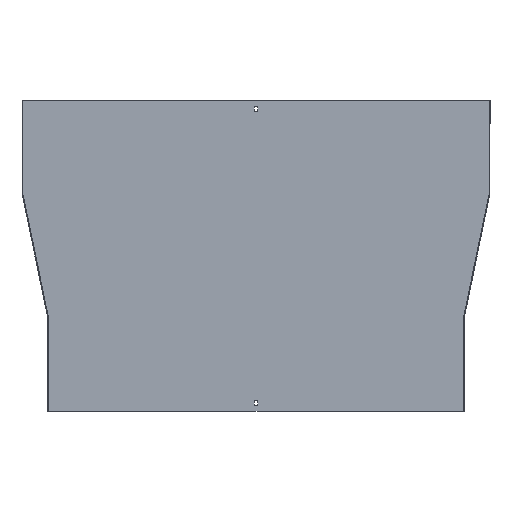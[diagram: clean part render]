
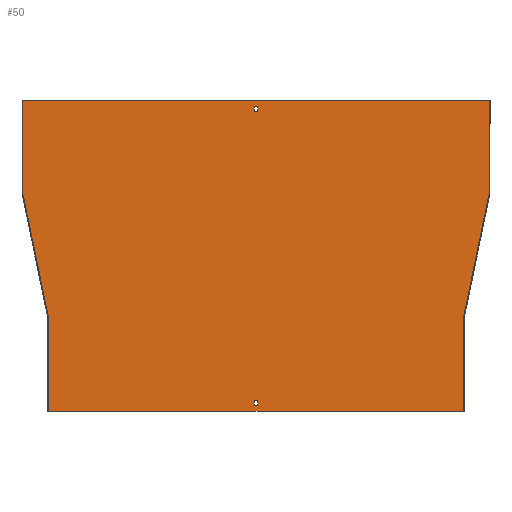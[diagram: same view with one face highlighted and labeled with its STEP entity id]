
A CAD part, front view. The second image highlights one B-rep face of the part: STEP entity #50.
In plain terms, the highlighted planar face has unit normal (0, -1, 0).
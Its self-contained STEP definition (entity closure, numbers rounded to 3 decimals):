
#4 = EDGE_LOOP ( 'NONE', ( #29, #492, #742, #389 ) ) ;
#21 = FACE_BOUND ( 'NONE', #4, .T. ) ;
#23 = VERTEX_POINT ( 'NONE', #665 ) ;
#27 = CARTESIAN_POINT ( 'NONE',  ( 3.25, -1.5, 0. ) ) ;
#29 = ORIENTED_EDGE ( 'NONE', *, *, #266, .F. ) ;
#39 = VECTOR ( 'NONE', #53, 1000. ) ;
#46 = CARTESIAN_POINT ( 'NONE',  ( -400., -1.5, -420. ) ) ;
#50 = ADVANCED_FACE ( 'NONE', ( #21, #801, #544 ), #214, .T. ) ;
#53 = DIRECTION ( 'NONE',  ( 0., 0., 1. ) ) ;
#60 = VERTEX_POINT ( 'NONE', #669 ) ;
#74 = CARTESIAN_POINT ( 'NONE',  ( 3.25, -1.5, 0. ) ) ;
#79 = LINE ( 'NONE', #74, #854 ) ;
#87 = ORIENTED_EDGE ( 'NONE', *, *, #443, .T. ) ;
#92 = VECTOR ( 'NONE', #795, 1000. ) ;
#93 = ORIENTED_EDGE ( 'NONE', *, *, #396, .T. ) ;
#96 = DIRECTION ( 'NONE',  ( 0., 0., 1. ) ) ;
#98 = CARTESIAN_POINT ( 'NONE',  ( -3.25, -1.5, -12. ) ) ;
#100 = LINE ( 'NONE', #241, #425 ) ;
#102 = CARTESIAN_POINT ( 'NONE',  ( 450., -1.5, 0. ) ) ;
#115 = VERTEX_POINT ( 'NONE', #169 ) ;
#129 = EDGE_CURVE ( 'NONE', #831, #807, #490, .T. ) ;
#131 = VECTOR ( 'NONE', #96, 1000. ) ;
#142 = LINE ( 'NONE', #595, #365 ) ;
#144 = VERTEX_POINT ( 'NONE', #572 ) ;
#145 = VERTEX_POINT ( 'NONE', #102 ) ;
#157 = CARTESIAN_POINT ( 'NONE',  ( 0., -1.5, 0. ) ) ;
#169 = CARTESIAN_POINT ( 'NONE',  ( 3.25, -1.5, -579. ) ) ;
#182 = VECTOR ( 'NONE', #800, 1000. ) ;
#183 = DIRECTION ( 'NONE',  ( -1., 0., 0. ) ) ;
#189 = EDGE_CURVE ( 'NONE', #145, #60, #245, .T. ) ;
#190 = VERTEX_POINT ( 'NONE', #638 ) ;
#197 = EDGE_CURVE ( 'NONE', #642, #831, #527, .T. ) ;
#203 = EDGE_CURVE ( 'NONE', #589, #115, #375, .T. ) ;
#207 = VECTOR ( 'NONE', #183, 1000. ) ;
#212 = VERTEX_POINT ( 'NONE', #514 ) ;
#213 = DIRECTION ( 'NONE',  ( -0.204, 0., -0.979 ) ) ;
#214 = PLANE ( 'NONE',  #437 ) ;
#219 = LINE ( 'NONE', #476, #827 ) ;
#225 = CARTESIAN_POINT ( 'NONE',  ( 451.5, -1.5, 0. ) ) ;
#241 = CARTESIAN_POINT ( 'NONE',  ( 400., -1.5, -600. ) ) ;
#245 = LINE ( 'NONE', #769, #550 ) ;
#254 = CARTESIAN_POINT ( 'NONE',  ( -3.25, -1.5, -579. ) ) ;
#257 = VERTEX_POINT ( 'NONE', #712 ) ;
#260 = EDGE_CURVE ( 'NONE', #144, #23, #326, .T. ) ;
#266 = EDGE_CURVE ( 'NONE', #771, #642, #646, .T. ) ;
#269 = DIRECTION ( 'NONE',  ( 0., 0., 1. ) ) ;
#278 = VECTOR ( 'NONE', #746, 1000. ) ;
#285 = ORIENTED_EDGE ( 'NONE', *, *, #509, .F. ) ;
#306 = DIRECTION ( 'NONE',  ( -0.204, 0., 0.979 ) ) ;
#313 = EDGE_CURVE ( 'NONE', #685, #589, #142, .T. ) ;
#314 = DIRECTION ( 'NONE',  ( 0., 0., -1. ) ) ;
#317 = DIRECTION ( 'NONE',  ( 0., 0., -1. ) ) ;
#323 = EDGE_LOOP ( 'NONE', ( #798, #341, #770, #403, #482, #285, #521, #617 ) ) ;
#326 = LINE ( 'NONE', #588, #39 ) ;
#334 = DIRECTION ( 'NONE',  ( 0., 0., -1. ) ) ;
#341 = ORIENTED_EDGE ( 'NONE', *, *, #260, .F. ) ;
#354 = LINE ( 'NONE', #763, #207 ) ;
#365 = VECTOR ( 'NONE', #269, 1000. ) ;
#375 = LINE ( 'NONE', #385, #740 ) ;
#381 = VECTOR ( 'NONE', #760, 1000. ) ;
#385 = CARTESIAN_POINT ( 'NONE',  ( 0., -1.5, -579. ) ) ;
#387 = CARTESIAN_POINT ( 'NONE',  ( -3.25, -1.5, -21. ) ) ;
#389 = ORIENTED_EDGE ( 'NONE', *, *, #197, .F. ) ;
#390 = LINE ( 'NONE', #225, #92 ) ;
#396 = EDGE_CURVE ( 'NONE', #115, #257, #79, .T. ) ;
#402 = EDGE_LOOP ( 'NONE', ( #87, #478, #433, #93 ) ) ;
#403 = ORIENTED_EDGE ( 'NONE', *, *, #781, .F. ) ;
#405 = DIRECTION ( 'NONE',  ( 0., -1., 0. ) ) ;
#408 = VECTOR ( 'NONE', #701, 1000. ) ;
#414 = DIRECTION ( 'NONE',  ( 0., 0., -1. ) ) ;
#425 = VECTOR ( 'NONE', #317, 1000. ) ;
#427 = EDGE_CURVE ( 'NONE', #23, #145, #390, .T. ) ;
#433 = ORIENTED_EDGE ( 'NONE', *, *, #203, .T. ) ;
#437 = AXIS2_PLACEMENT_3D ( 'NONE', #157, #405, #414 ) ;
#443 = EDGE_CURVE ( 'NONE', #257, #685, #354, .T. ) ;
#444 = CARTESIAN_POINT ( 'NONE',  ( -3.25, -1.5, 0. ) ) ;
#457 = DIRECTION ( 'NONE',  ( 0., 0., -1. ) ) ;
#467 = CARTESIAN_POINT ( 'NONE',  ( -400., -1.5, -419.845 ) ) ;
#468 = LINE ( 'NONE', #541, #182 ) ;
#471 = EDGE_CURVE ( 'NONE', #807, #771, #517, .T. ) ;
#476 = CARTESIAN_POINT ( 'NONE',  ( 400.032, -1.5, -419.694 ) ) ;
#478 = ORIENTED_EDGE ( 'NONE', *, *, #313, .T. ) ;
#482 = ORIENTED_EDGE ( 'NONE', *, *, #718, .F. ) ;
#487 = LINE ( 'NONE', #46, #278 ) ;
#490 = LINE ( 'NONE', #27, #131 ) ;
#492 = ORIENTED_EDGE ( 'NONE', *, *, #471, .F. ) ;
#504 = CARTESIAN_POINT ( 'NONE',  ( 3.25, -1.5, -12. ) ) ;
#505 = EDGE_CURVE ( 'NONE', #622, #144, #571, .T. ) ;
#509 = EDGE_CURVE ( 'NONE', #557, #212, #100, .T. ) ;
#514 = CARTESIAN_POINT ( 'NONE',  ( 400., -1.5, -600. ) ) ;
#517 = LINE ( 'NONE', #637, #381 ) ;
#520 = DIRECTION ( 'NONE',  ( 1., 0., 0. ) ) ;
#521 = ORIENTED_EDGE ( 'NONE', *, *, #655, .F. ) ;
#527 = LINE ( 'NONE', #852, #408 ) ;
#541 = CARTESIAN_POINT ( 'NONE',  ( -401.5, -1.5, -600. ) ) ;
#544 = FACE_BOUND ( 'NONE', #402, .T. ) ;
#550 = VECTOR ( 'NONE', #457, 1000. ) ;
#557 = VERTEX_POINT ( 'NONE', #848 ) ;
#571 = LINE ( 'NONE', #756, #794 ) ;
#572 = CARTESIAN_POINT ( 'NONE',  ( -450., -1.5, -179.845 ) ) ;
#578 = VECTOR ( 'NONE', #314, 1000. ) ;
#588 = CARTESIAN_POINT ( 'NONE',  ( -450., -1.5, 0. ) ) ;
#589 = VERTEX_POINT ( 'NONE', #254 ) ;
#595 = CARTESIAN_POINT ( 'NONE',  ( -3.25, -1.5, 0. ) ) ;
#614 = CARTESIAN_POINT ( 'NONE',  ( -3.25, -1.5, -588. ) ) ;
#617 = ORIENTED_EDGE ( 'NONE', *, *, #189, .F. ) ;
#622 = VERTEX_POINT ( 'NONE', #467 ) ;
#637 = CARTESIAN_POINT ( 'NONE',  ( 0., -1.5, -12. ) ) ;
#638 = CARTESIAN_POINT ( 'NONE',  ( -400., -1.5, -600. ) ) ;
#642 = VERTEX_POINT ( 'NONE', #387 ) ;
#646 = LINE ( 'NONE', #444, #578 ) ;
#655 = EDGE_CURVE ( 'NONE', #60, #557, #219, .T. ) ;
#665 = CARTESIAN_POINT ( 'NONE',  ( -450., -1.5, 0. ) ) ;
#669 = CARTESIAN_POINT ( 'NONE',  ( 450., -1.5, -179.845 ) ) ;
#685 = VERTEX_POINT ( 'NONE', #614 ) ;
#701 = DIRECTION ( 'NONE',  ( 1., 0., 0. ) ) ;
#712 = CARTESIAN_POINT ( 'NONE',  ( 3.25, -1.5, -588. ) ) ;
#718 = EDGE_CURVE ( 'NONE', #212, #190, #468, .T. ) ;
#740 = VECTOR ( 'NONE', #520, 1000. ) ;
#742 = ORIENTED_EDGE ( 'NONE', *, *, #129, .F. ) ;
#746 = DIRECTION ( 'NONE',  ( 0., 0., 1. ) ) ;
#756 = CARTESIAN_POINT ( 'NONE',  ( -450.032, -1.5, -179.694 ) ) ;
#760 = DIRECTION ( 'NONE',  ( -1., 0., 0. ) ) ;
#762 = CARTESIAN_POINT ( 'NONE',  ( 3.25, -1.5, -21. ) ) ;
#763 = CARTESIAN_POINT ( 'NONE',  ( 0., -1.5, -588. ) ) ;
#769 = CARTESIAN_POINT ( 'NONE',  ( 450., -1.5, -180. ) ) ;
#770 = ORIENTED_EDGE ( 'NONE', *, *, #505, .F. ) ;
#771 = VERTEX_POINT ( 'NONE', #98 ) ;
#781 = EDGE_CURVE ( 'NONE', #190, #622, #487, .T. ) ;
#794 = VECTOR ( 'NONE', #306, 1000. ) ;
#795 = DIRECTION ( 'NONE',  ( 1., 0., 0. ) ) ;
#798 = ORIENTED_EDGE ( 'NONE', *, *, #427, .F. ) ;
#800 = DIRECTION ( 'NONE',  ( -1., 0., 0. ) ) ;
#801 = FACE_OUTER_BOUND ( 'NONE', #323, .T. ) ;
#807 = VERTEX_POINT ( 'NONE', #504 ) ;
#827 = VECTOR ( 'NONE', #213, 1000. ) ;
#831 = VERTEX_POINT ( 'NONE', #762 ) ;
#848 = CARTESIAN_POINT ( 'NONE',  ( 400., -1.5, -419.845 ) ) ;
#852 = CARTESIAN_POINT ( 'NONE',  ( 0., -1.5, -21. ) ) ;
#854 = VECTOR ( 'NONE', #334, 1000. ) ;
